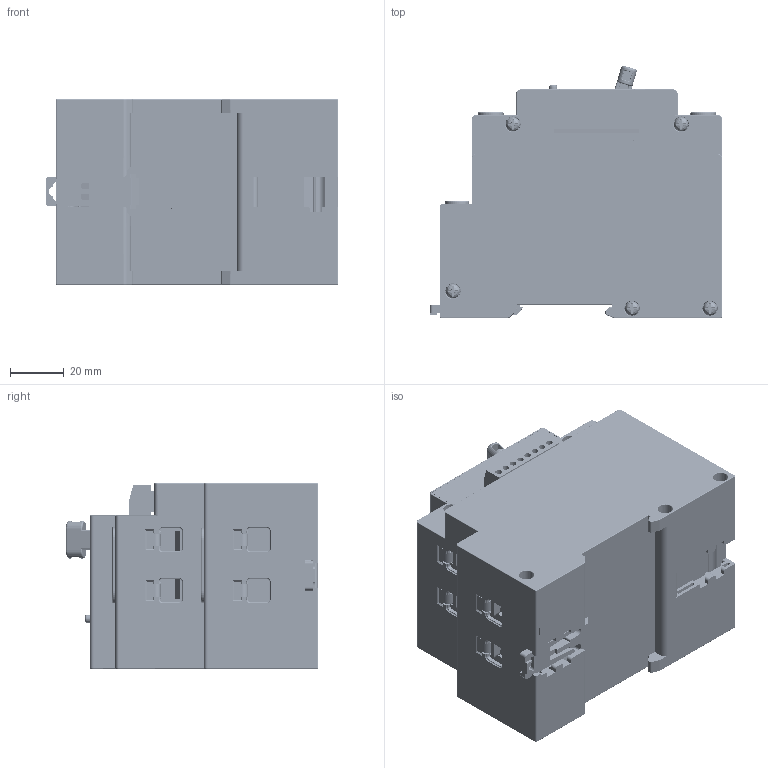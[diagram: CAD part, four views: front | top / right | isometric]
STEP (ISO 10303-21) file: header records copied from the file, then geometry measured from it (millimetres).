
FILE_DESCRIPTION(/* description */ (''),/* implementation_level */ '2;1');
FILE_NAME(/* name */ 'NDQ2-63X模型图.step',/* time_stamp */ '2024-09-23T16:06:16+08:00',/* author */ (''),/* organization */ (''),/* preprocessor_version */ 'ST-DEVELOPER v16',/* originating_system */ 'SIEMENS PLM Software NX 10.0',/* authorisation */ '');
FILE_SCHEMA (('AUTOMOTIVE_DESIGN { 1 0 10303 214 3 1 1 1 }'));
Products named in the file (1): NDQ2-63X新外观
Bounding box: 108.58 x 93.83 x 69 mm (x, y, z)
Volume: 198192.7 mm3; surface area: 257938.5 mm2
Topology: 261 solids, 261 shells, 10707 faces, 27956 edges, 17749 vertices
Faces by surface type: plane 6927, cylinder 2818, torus 376, sphere 245, cone 189, bspline 132, extrusion 20
Full cylindrical faces by diameter (mm): 0.5 x2, 0.7 x16, 0.838 x2, 0.9 x11, 1 x2, 1.2 x33, 1.3 x7, 1.4 x12, 1.5 x20, 2 x21, 2.3 x12, 2.4 x18, 2.455 x8, 2.5 x17, 2.8 x1, 2.9 x9, 3 x11, 3.5 x18, 3.6 x8, 3.8 x6, 3.9 x1, 4 x11, 4.071 x1, 4.2 x8, 4.5 x13, 4.7 x9, 5 x6, 5.2 x11, 5.3 x4, 5.5 x9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
Entity records: 342542 total; most frequent: CARTESIAN_POINT 75902, ORIENTED_EDGE 54138, DIRECTION 53547, EDGE_CURVE 27069, VECTOR 19781, LINE 19761, VERTEX_POINT 17618, AXIS2_PLACEMENT_3D 16883
